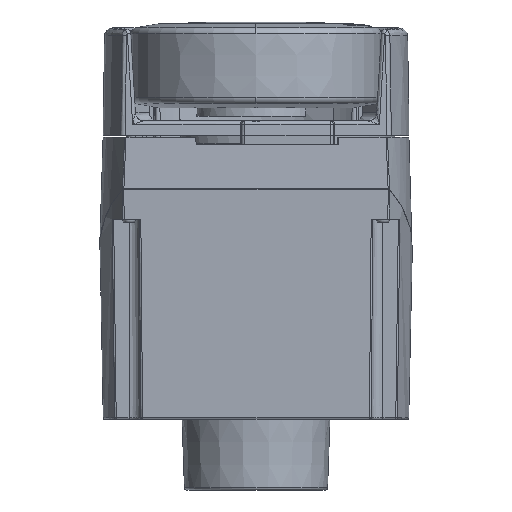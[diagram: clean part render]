
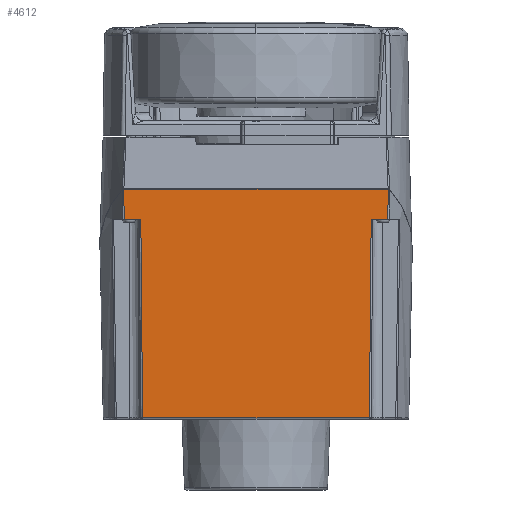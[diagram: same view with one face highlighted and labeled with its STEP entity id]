
A CAD part, front view. The second image highlights one B-rep face of the part: STEP entity #4612.
In plain terms, the highlighted planar face has unit normal (0, -1, -0.012).
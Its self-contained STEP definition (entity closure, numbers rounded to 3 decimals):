
#3 = CARTESIAN_POINT ( 'NONE',  ( -78.603, -48.636, -31.053 ) ) ;
#893 = ORIENTED_EDGE ( 'NONE', *, *, #10857, .T. ) ;
#1019 = VERTEX_POINT ( 'NONE', #32014 ) ;
#1795 = CARTESIAN_POINT ( 'NONE',  ( 78.494, -48.493, -43.014 ) ) ;
#1860 = ORIENTED_EDGE ( 'NONE', *, *, #34102, .T. ) ;
#2251 = CARTESIAN_POINT ( 'NONE',  ( 79.158, -48.422, -49. ) ) ;
#2687 = CARTESIAN_POINT ( 'NONE',  ( -78.44, -48.422, -49. ) ) ;
#2757 = CARTESIAN_POINT ( 'NONE',  ( 79.158, -48.638, -30.853 ) ) ;
#4612 = ADVANCED_FACE ( 'NONE', ( #29951 ), #6459, .T. ) ;
#5499 = CARTESIAN_POINT ( 'NONE',  ( 78.549, -48.564, -37.032 ) ) ;
#5900 = ORIENTED_EDGE ( 'NONE', *, *, #38595, .T. ) ;
#6394 = CARTESIAN_POINT ( 'NONE',  ( -78.494, -48.493, -43.014 ) ) ;
#6451 = VECTOR ( 'NONE', #10011, 1000. ) ;
#6459 = PLANE ( 'NONE',  #23430 ) ;
#6501 = VERTEX_POINT ( 'NONE', #14791 ) ;
#8547 = B_SPLINE_CURVE_WITH_KNOTS ( 'NONE', 3,
 ( #20128, #42141, #1795, #27548, #5499, #31239, #9191 ),
 .UNSPECIFIED., .F., .F.,
 ( 4, 3, 4 ),
 ( 0., 0.009, 0.018 ),
 .UNSPECIFIED. ) ;
#9146 = CARTESIAN_POINT ( 'NONE',  ( 79.158, -48.422, -49. ) ) ;
#9191 = CARTESIAN_POINT ( 'NONE',  ( 78.603, -48.636, -31.053 ) ) ;
#9521 = DIRECTION ( 'NONE',  ( 0., -1., -0.012 ) ) ;
#10011 = DIRECTION ( 'NONE',  ( 0.009, 0.012, -1. ) ) ;
#10093 = CARTESIAN_POINT ( 'NONE',  ( -78.576, -48.6, -34.042 ) ) ;
#10857 = EDGE_CURVE ( 'NONE', #16800, #30667, #42150, .T. ) ;
#11325 = LINE ( 'NONE', #21632, #39523 ) ;
#11887 = VECTOR ( 'NONE', #20231, 1000. ) ;
#11929 = VERTEX_POINT ( 'NONE', #41622 ) ;
#12216 = EDGE_LOOP ( 'NONE', ( #31551, #1860, #23023, #5900, #13376, #23651, #17125, #893 ) ) ;
#13376 = ORIENTED_EDGE ( 'NONE', *, *, #36269, .F. ) ;
#13413 = CARTESIAN_POINT ( 'NONE',  ( 68.5, -48.422, -48.991 ) ) ;
#13769 = CARTESIAN_POINT ( 'NONE',  ( -78.549, -48.564, -37.032 ) ) ;
#14490 = LINE ( 'NONE', #2251, #40376 ) ;
#14791 = CARTESIAN_POINT ( 'NONE',  ( 67.47, -47.012, -167.012 ) ) ;
#15043 = LINE ( 'NONE', #24963, #6451 ) ;
#15384 = DIRECTION ( 'NONE',  ( 1., 0., 0. ) ) ;
#16800 = VERTEX_POINT ( 'NONE', #3 ) ;
#17125 = ORIENTED_EDGE ( 'NONE', *, *, #29807, .F. ) ;
#17267 = CARTESIAN_POINT ( 'NONE',  ( -68.5, -48.422, -49. ) ) ;
#17573 = LINE ( 'NONE', #13413, #36003 ) ;
#19504 = CARTESIAN_POINT ( 'NONE',  ( -67.47, -47.012, -167.012 ) ) ;
#20017 = VECTOR ( 'NONE', #15384, 1000. ) ;
#20128 = CARTESIAN_POINT ( 'NONE',  ( 78.44, -48.422, -49. ) ) ;
#20231 = DIRECTION ( 'NONE',  ( -1., 0., 0. ) ) ;
#21022 = CARTESIAN_POINT ( 'NONE',  ( -78.522, -48.529, -40.021 ) ) ;
#21632 = CARTESIAN_POINT ( 'NONE',  ( -93.073, -48.636, -31.053 ) ) ;
#21694 = LINE ( 'NONE', #9146, #11887 ) ;
#23023 = ORIENTED_EDGE ( 'NONE', *, *, #24245, .T. ) ;
#23430 = AXIS2_PLACEMENT_3D ( 'NONE', #2757, #9521, #42617 ) ;
#23651 = ORIENTED_EDGE ( 'NONE', *, *, #39700, .T. ) ;
#24245 = EDGE_CURVE ( 'NONE', #29198, #6501, #41874, .T. ) ;
#24930 = VERTEX_POINT ( 'NONE', #36399 ) ;
#24963 = CARTESIAN_POINT ( 'NONE',  ( -68.647, -48.623, -32.143 ) ) ;
#27548 = CARTESIAN_POINT ( 'NONE',  ( 78.522, -48.529, -40.021 ) ) ;
#28005 = DIRECTION ( 'NONE',  ( -1., 0., 0. ) ) ;
#29198 = VERTEX_POINT ( 'NONE', #19504 ) ;
#29807 = EDGE_CURVE ( 'NONE', #16800, #1019, #11325, .T. ) ;
#29951 = FACE_OUTER_BOUND ( 'NONE', #12216, .T. ) ;
#30641 = VERTEX_POINT ( 'NONE', #17267 ) ;
#30667 = VERTEX_POINT ( 'NONE', #32229 ) ;
#31239 = CARTESIAN_POINT ( 'NONE',  ( 78.576, -48.6, -34.042 ) ) ;
#31551 = ORIENTED_EDGE ( 'NONE', *, *, #41994, .F. ) ;
#32014 = CARTESIAN_POINT ( 'NONE',  ( 78.603, -48.636, -31.053 ) ) ;
#32120 = CARTESIAN_POINT ( 'NONE',  ( -78.467, -48.457, -46.007 ) ) ;
#32229 = CARTESIAN_POINT ( 'NONE',  ( -78.44, -48.422, -49. ) ) ;
#34102 = EDGE_CURVE ( 'NONE', #30641, #29198, #15043, .T. ) ;
#35827 = CARTESIAN_POINT ( 'NONE',  ( -78.603, -48.636, -31.053 ) ) ;
#36003 = VECTOR ( 'NONE', #42852, 1000. ) ;
#36269 = EDGE_CURVE ( 'NONE', #24930, #11929, #21694, .T. ) ;
#36399 = CARTESIAN_POINT ( 'NONE',  ( 78.44, -48.422, -49. ) ) ;
#38595 = EDGE_CURVE ( 'NONE', #6501, #11929, #17573, .T. ) ;
#39523 = VECTOR ( 'NONE', #43617, 1000. ) ;
#39700 = EDGE_CURVE ( 'NONE', #24930, #1019, #8547, .T. ) ;
#40376 = VECTOR ( 'NONE', #28005, 1000. ) ;
#41622 = CARTESIAN_POINT ( 'NONE',  ( 68.5, -48.422, -49. ) ) ;
#41874 = LINE ( 'NONE', #44636, #20017 ) ;
#41994 = EDGE_CURVE ( 'NONE', #30641, #30667, #14490, .T. ) ;
#42141 = CARTESIAN_POINT ( 'NONE',  ( 78.467, -48.457, -46.007 ) ) ;
#42150 = B_SPLINE_CURVE_WITH_KNOTS ( 'NONE', 3,
 ( #35827, #10093, #13769, #21022, #6394, #32120, #2687 ),
 .UNSPECIFIED., .F., .F.,
 ( 4, 3, 4 ),
 ( 0., 0.009, 0.018 ),
 .UNSPECIFIED. ) ;
#42617 = DIRECTION ( 'NONE',  ( -1., 0., 0. ) ) ;
#42852 = DIRECTION ( 'NONE',  ( 0.009, -0.012, 1. ) ) ;
#43617 = DIRECTION ( 'NONE',  ( 1., 0., 0. ) ) ;
#44636 = CARTESIAN_POINT ( 'NONE',  ( 68.462, -47.012, -167.012 ) ) ;
